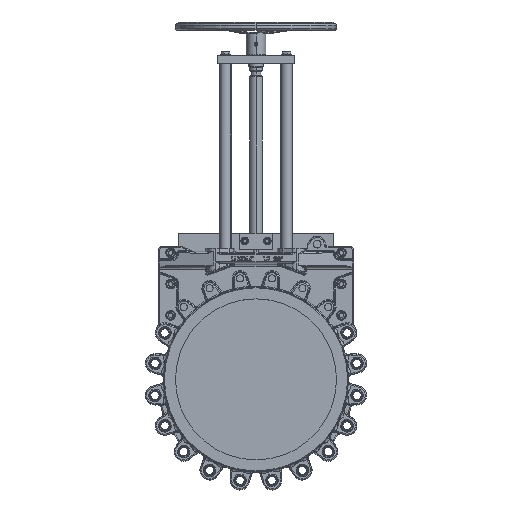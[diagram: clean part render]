
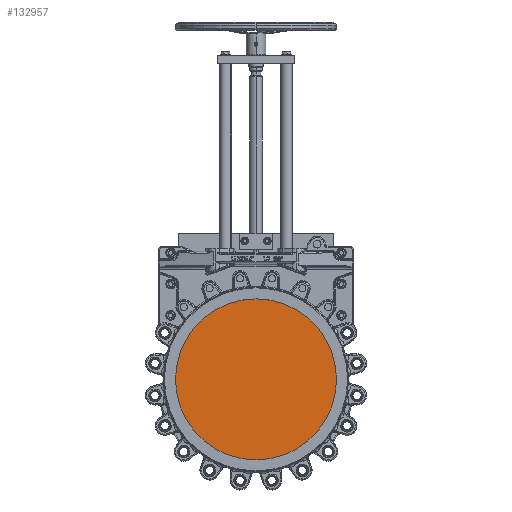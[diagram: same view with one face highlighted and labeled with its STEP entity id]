
A CAD part, top view. The second image highlights one B-rep face of the part: STEP entity #132957.
In plain terms, the highlighted planar face has unit normal (0, 0, 1).
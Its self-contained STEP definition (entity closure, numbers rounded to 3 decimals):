
#624 = DIRECTION ( 'NONE',  ( 1., 0., 0. ) ) ;
#1488 = DIRECTION ( 'NONE',  ( 0., 0., 1. ) ) ;
#18223 = CARTESIAN_POINT ( 'NONE',  ( 0., 0., -0.25 ) ) ;
#19121 = PLANE ( 'NONE',  #142433 ) ;
#20084 = EDGE_CURVE ( 'NONE', #162446, #105374, #149372, .T. ) ;
#21330 = DIRECTION ( 'NONE',  ( 0., 0., 1. ) ) ;
#23103 = DIRECTION ( 'NONE',  ( 1., 0., 0. ) ) ;
#61217 = CIRCLE ( 'NONE', #72814, 250. ) ;
#71585 = AXIS2_PLACEMENT_3D ( 'NONE', #153121, #1488, #624 ) ;
#72814 = AXIS2_PLACEMENT_3D ( 'NONE', #145801, #21330, #23103 ) ;
#74743 = EDGE_LOOP ( 'NONE', ( #146322, #81907 ) ) ;
#81907 = ORIENTED_EDGE ( 'NONE', *, *, #20084, .T. ) ;
#105374 = VERTEX_POINT ( 'NONE', #131642 ) ;
#114897 = DIRECTION ( 'NONE',  ( 0., 0., 1. ) ) ;
#128416 = DIRECTION ( 'NONE',  ( 1., 0., 0. ) ) ;
#131642 = CARTESIAN_POINT ( 'NONE',  ( 250., 0., -0.25 ) ) ;
#131757 = EDGE_CURVE ( 'NONE', #105374, #162446, #61217, .T. ) ;
#132957 = ADVANCED_FACE ( 'NONE', ( #166266 ), #19121, .T. ) ;
#142433 = AXIS2_PLACEMENT_3D ( 'NONE', #18223, #114897, #128416 ) ;
#145626 = CARTESIAN_POINT ( 'NONE',  ( -250., 0., -0.25 ) ) ;
#145801 = CARTESIAN_POINT ( 'NONE',  ( 0., 0., -0.25 ) ) ;
#146322 = ORIENTED_EDGE ( 'NONE', *, *, #131757, .T. ) ;
#149372 = CIRCLE ( 'NONE', #71585, 250. ) ;
#153121 = CARTESIAN_POINT ( 'NONE',  ( 0., 0., -0.25 ) ) ;
#162446 = VERTEX_POINT ( 'NONE', #145626 ) ;
#166266 = FACE_OUTER_BOUND ( 'NONE', #74743, .T. ) ;
